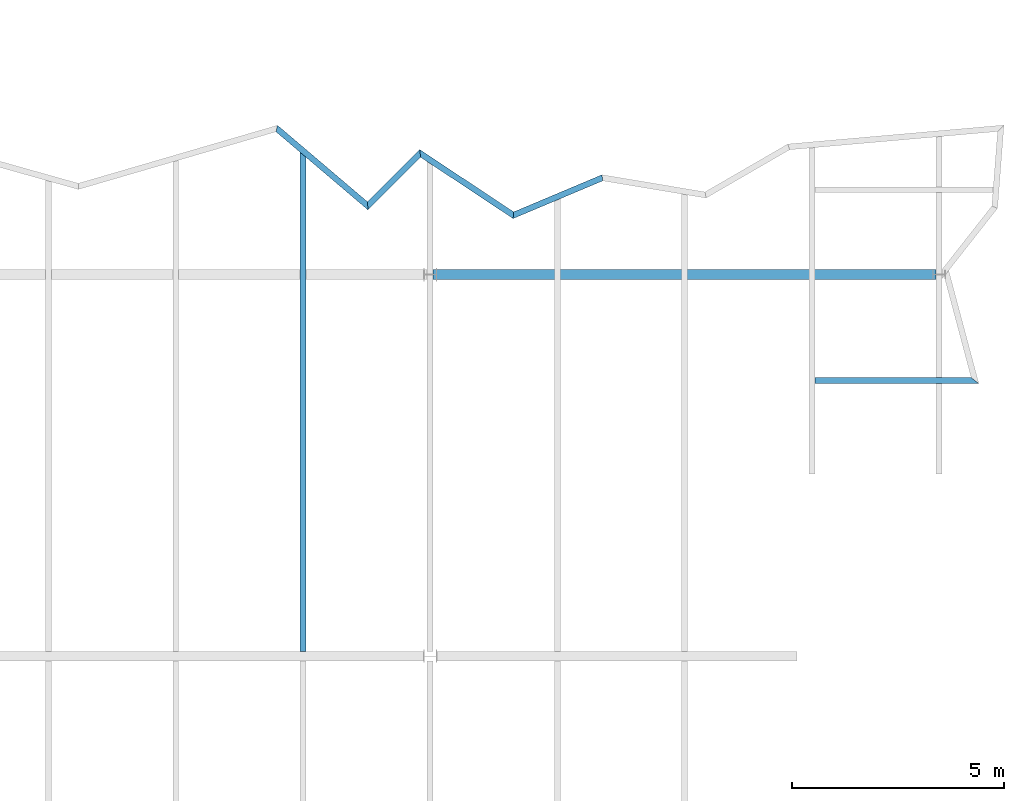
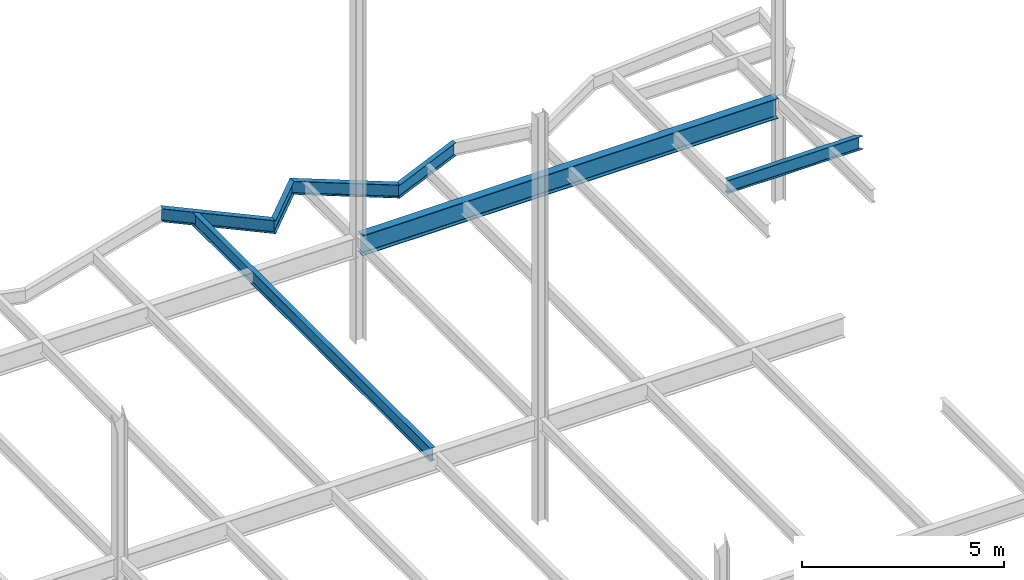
# One storey, part 24 of 26: 7 beams.
"""IFC2X3 building model written with IfcOpenShell, lengths in millimetres."""

from ifc_helpers import new_model, si_unit, origin, place, context, project, spatial, faceted_brep, material, element, save


model = new_model("IFC2X3")

# Units and contexts
context_of_model = context(None, 3, precision=1e-05, world=origin())
ifc_project = project(units=[si_unit("LENGTHUNIT", "METRE", prefix="MILLI")], contexts=[context_of_model])

# Building, storey
building = spatial("IfcBuilding", under=ifc_project, Name="Building", CompositionType="ELEMENT")
storey = spatial("IfcBuildingStorey", under=building, Name="FL4-FRM", CompositionType="ELEMENT")

# Beams
ifc_material_1 = material(Name="A992")
beam_1_placement = place(None, origin())
element("IfcBeam", 1, at=beam_1_placement, inside=storey, material=ifc_material_1, Name="B1006", context=context_of_model, shape_type="Brep", body=[
    faceted_brep([(81070.0, 24430.0, 12974.0), (81070.0, 24570.0, 12974.0), (84758.1, 24570.0, 12974.0), (84940.3, 24430.0, 12974.0), (81070.0, 24570.0, 12982.8), (84758.1, 24570.0, 12982.8), (81070.0, 24513.4, 12982.8), (84831.8, 24513.4, 12982.8), (81070.0, 24511.9, 12982.9), (84833.6, 24512.0, 12982.9), (81070.0, 24510.5, 12983.2), (84835.5, 24510.5, 12983.2), (81070.0, 24509.2, 12983.7), (84837.2, 24509.2, 12983.7), (81070.0, 24507.9, 12984.4), (84838.9, 24507.9, 12984.4), (81070.0, 24506.7, 12985.3), (84840.4, 24506.7, 12985.2), (81070.0, 24505.7, 12986.3), (84841.7, 24505.7, 12986.3), (81070.0, 24504.8, 12987.5), (84842.9, 24504.9, 12987.4), (81070.0, 24504.1, 12988.8), (84843.8, 24504.1, 12988.7), (81070.0, 24503.6, 12990.1), (84844.4, 24503.7, 12990.1), (81070.0, 24503.3, 12991.5), (84844.8, 24503.4, 12991.5), (81070.0, 24503.2, 12993.0), (84845.0, 24503.2, 12993.0), (81070.0, 24503.2, 13354.0), (84845.0, 24503.2, 13354.0), (81070.0, 24503.3, 13355.5), (84844.8, 24503.4, 13355.5), (81070.0, 24503.6, 13356.9), (84844.4, 24503.7, 13356.9), (81070.0, 24504.1, 13358.2), (84843.8, 24504.1, 13358.3), (81070.0, 24504.8, 13359.5), (84842.9, 24504.9, 13359.6), (81070.0, 24505.7, 13360.7), (84841.7, 24505.7, 13360.7), (81070.0, 24506.7, 13361.7), (84840.4, 24506.7, 13361.8), (81070.0, 24507.9, 13362.6), (84838.9, 24507.9, 13362.6), (81070.0, 24509.2, 13363.3), (84837.2, 24509.2, 13363.3), (81070.0, 24510.5, 13363.8), (84835.5, 24510.5, 13363.8), (81070.0, 24511.9, 13364.1), (84833.6, 24512.0, 13364.1), (81070.0, 24513.4, 13364.2), (84831.8, 24513.4, 13364.2), (81070.0, 24570.0, 13364.2), (84758.1, 24570.0, 13364.2), (81070.0, 24570.0, 13373.0), (84758.1, 24570.0, 13373.0), (81070.0, 24430.0, 13373.0), (84940.3, 24430.0, 13373.0), (81070.0, 24430.0, 13364.2), (84940.3, 24430.0, 13364.2), (81070.0, 24486.6, 13364.2), (84866.6, 24486.6, 13364.2), (81070.0, 24488.1, 13364.1), (84864.8, 24488.0, 13364.1), (81070.0, 24489.5, 13363.8), (84862.9, 24489.5, 13363.8), (81070.0, 24490.8, 13363.3), (84861.1, 24490.8, 13363.3), (81070.0, 24492.1, 13362.6), (84859.5, 24492.1, 13362.6), (81070.0, 24493.3, 13361.7), (84858.0, 24493.3, 13361.8), (81070.0, 24494.3, 13360.7), (84856.7, 24494.3, 13360.7), (81070.0, 24495.2, 13359.5), (84855.5, 24495.1, 13359.6), (81070.0, 24495.9, 13358.2), (84854.6, 24495.9, 13358.3), (81070.0, 24496.4, 13356.9), (84854.0, 24496.3, 13356.9), (81070.0, 24496.7, 13355.5), (84853.6, 24496.6, 13355.5), (81070.0, 24496.8, 13354.0), (84853.4, 24496.8, 13354.0), (81070.0, 24496.8, 12993.0), (84853.4, 24496.8, 12993.0), (81070.0, 24496.7, 12991.5), (84853.6, 24496.6, 12991.5), (81070.0, 24496.4, 12990.1), (84854.0, 24496.3, 12990.1), (81070.0, 24495.9, 12988.8), (84854.6, 24495.9, 12988.7), (81070.0, 24495.2, 12987.5), (84855.5, 24495.1, 12987.4), (81070.0, 24494.3, 12986.3), (84856.7, 24494.3, 12986.3), (81070.0, 24493.3, 12985.3), (84858.0, 24493.3, 12985.2), (81070.0, 24492.1, 12984.4), (84859.5, 24492.1, 12984.4), (81070.0, 24490.8, 12983.7), (84861.1, 24490.8, 12983.7), (81070.0, 24489.5, 12983.2), (84862.9, 24489.5, 12983.2), (81070.0, 24488.1, 12982.9), (84864.8, 24488.0, 12982.9), (81070.0, 24486.6, 12982.8), (84866.6, 24486.6, 12982.8), (81070.0, 24430.0, 12982.8), (84940.3, 24430.0, 12982.8)], [[[0, 1, 2, 3]], [[1, 4, 5, 2]], [[4, 6, 7, 5]], [[6, 8, 9, 7]], [[8, 10, 11, 9]], [[10, 12, 13, 11]], [[12, 14, 15, 13]], [[14, 16, 17, 15]], [[16, 18, 19, 17]], [[18, 20, 21, 19]], [[20, 22, 23, 21]], [[22, 24, 25, 23]], [[24, 26, 27, 25]], [[26, 28, 29, 27]], [[28, 30, 31, 29]], [[30, 32, 33, 31]], [[32, 34, 35, 33]], [[34, 36, 37, 35]], [[36, 38, 39, 37]], [[38, 40, 41, 39]], [[40, 42, 43, 41]], [[42, 44, 45, 43]], [[44, 46, 47, 45]], [[46, 48, 49, 47]], [[48, 50, 51, 49]], [[50, 52, 53, 51]], [[52, 54, 55, 53]], [[54, 56, 57, 55]], [[56, 58, 59, 57]], [[58, 60, 61, 59]], [[60, 62, 63, 61]], [[62, 64, 65, 63]], [[64, 66, 67, 65]], [[66, 68, 69, 67]], [[68, 70, 71, 69]], [[70, 72, 73, 71]], [[72, 74, 75, 73]], [[74, 76, 77, 75]], [[76, 78, 79, 77]], [[78, 80, 81, 79]], [[80, 82, 83, 81]], [[82, 84, 85, 83]], [[84, 86, 87, 85]], [[86, 88, 89, 87]], [[88, 90, 91, 89]], [[90, 92, 93, 91]], [[92, 94, 95, 93]], [[94, 96, 97, 95]], [[96, 98, 99, 97]], [[98, 100, 101, 99]], [[100, 102, 103, 101]], [[102, 104, 105, 103]], [[104, 106, 107, 105]], [[106, 108, 109, 107]], [[108, 110, 111, 109]], [[110, 0, 3, 111]], [[0, 110, 108, 106, 104, 102, 100, 98, 96, 94, 92, 90, 88, 86, 84, 82, 80, 78, 76, 74, 72, 70, 68, 66, 64, 62, 60, 58, 56, 54, 52, 50, 48, 46, 44, 42, 40, 38, 36, 34, 32, 30, 28, 26, 24, 22, 20, 18, 16, 14, 12, 10, 8, 6, 4, 1]], [[3, 2, 5, 7, 9, 11, 13, 15, 17, 19, 21, 23, 25, 27, 29, 31, 33, 35, 37, 39, 41, 43, 45, 47, 49, 51, 53, 55, 57, 59, 61, 63, 65, 67, 69, 71, 73, 75, 77, 79, 81, 83, 85, 87, 89, 91, 93, 95, 97, 99, 101, 103, 105, 107, 109, 111]]]),
])
ifc_material_2 = material(Name="A992")
beam_2_placement = place(None, origin())
element("IfcBeam", 2, at=beam_2_placement, inside=storey, material=ifc_material_2, Name="B1017", context=context_of_model, shape_type="Brep", body=[
    faceted_brep([(73955.0, 28320.5, 12974.0), (73969.9, 28478.7, 12974.0), (76052.1, 29355.4, 12974.0), (76069.1, 29210.6, 12974.0), (73969.9, 28478.7, 12982.8), (76052.1, 29355.4, 12982.8), (73963.9, 28414.7, 12982.8), (76059.0, 29296.9, 12982.8), (73963.7, 28413.1, 12982.9), (76059.2, 29295.4, 12982.9), (73963.6, 28411.5, 12983.2), (76059.3, 29293.9, 12983.2), (73963.4, 28409.9, 12983.7), (76059.5, 29292.5, 12983.7), (73963.3, 28408.5, 12984.4), (76059.6, 29291.2, 12984.4), (73963.2, 28407.2, 12985.3), (76059.8, 29290.0, 12985.3), (73963.1, 28406.0, 12986.3), (76059.9, 29288.9, 12986.3), (73963.0, 28405.0, 12987.5), (76060.0, 29288.0, 12987.5), (73962.9, 28404.2, 12988.8), (76060.1, 29287.3, 12988.8), (73962.9, 28403.7, 12990.1), (76060.2, 29286.7, 12990.1), (73962.8, 28403.3, 12991.5), (76060.2, 29286.4, 12991.5), (73962.8, 28403.2, 12993.0), (76060.2, 29286.3, 12993.0), (73962.8, 28403.2, 13354.0), (76060.2, 29286.3, 13354.0), (73962.8, 28403.3, 13355.5), (76060.2, 29286.4, 13355.5), (73962.9, 28403.7, 13356.9), (76060.2, 29286.7, 13356.9), (73962.9, 28404.2, 13358.2), (76060.1, 29287.3, 13358.2), (73963.0, 28405.0, 13359.5), (76060.0, 29288.0, 13359.5), (73963.1, 28406.0, 13360.7), (76059.9, 29288.9, 13360.7), (73963.2, 28407.2, 13361.7), (76059.8, 29290.0, 13361.7), (73963.3, 28408.5, 13362.6), (76059.6, 29291.2, 13362.6), (73963.4, 28409.9, 13363.3), (76059.5, 29292.5, 13363.3), (73963.6, 28411.5, 13363.8), (76059.3, 29293.9, 13363.8), (73963.7, 28413.1, 13364.1), (76059.2, 29295.4, 13364.1), (73963.9, 28414.7, 13364.2), (76059.0, 29296.9, 13364.2), (73969.9, 28478.7, 13364.2), (76052.1, 29355.4, 13364.2), (73969.9, 28478.7, 13373.0), (76052.1, 29355.4, 13373.0), (73955.0, 28320.5, 13373.0), (76069.1, 29210.6, 13373.0), (73955.0, 28320.5, 13364.2), (76069.1, 29210.6, 13364.2), (73961.0, 28384.4, 13364.2), (76062.2, 29269.1, 13364.2), (73961.2, 28386.1, 13364.1), (76062.1, 29270.6, 13364.1), (73961.4, 28387.7, 13363.8), (76061.9, 29272.1, 13363.8), (73961.5, 28389.2, 13363.3), (76061.7, 29273.5, 13363.3), (73961.6, 28390.7, 13362.6), (76061.6, 29274.8, 13362.6), (73961.8, 28392.0, 13361.7), (76061.4, 29276.1, 13361.7), (73961.9, 28393.1, 13360.7), (76061.3, 29277.1, 13360.7), (73962.0, 28394.1, 13359.5), (76061.2, 29278.0, 13359.5), (73962.0, 28394.9, 13358.2), (76061.1, 29278.7, 13358.2), (73962.1, 28395.5, 13356.9), (76061.0, 29279.3, 13356.9), (73962.1, 28395.8, 13355.5), (76061.0, 29279.6, 13355.5), (73962.1, 28396.0, 13354.0), (76061.0, 29279.7, 13354.0), (73962.1, 28396.0, 12993.0), (76061.0, 29279.7, 12993.0), (73962.1, 28395.8, 12991.5), (76061.0, 29279.6, 12991.5), (73962.1, 28395.5, 12990.1), (76061.0, 29279.3, 12990.1), (73962.0, 28394.9, 12988.8), (76061.1, 29278.7, 12988.8), (73962.0, 28394.1, 12987.5), (76061.2, 29278.0, 12987.5), (73961.9, 28393.1, 12986.3), (76061.3, 29277.1, 12986.3), (73961.8, 28392.0, 12985.3), (76061.4, 29276.1, 12985.3), (73961.6, 28390.7, 12984.4), (76061.6, 29274.8, 12984.4), (73961.5, 28389.2, 12983.7), (76061.7, 29273.5, 12983.7), (73961.4, 28387.7, 12983.2), (76061.9, 29272.1, 12983.2), (73961.2, 28386.1, 12982.9), (76062.1, 29270.6, 12982.9), (73961.0, 28384.4, 12982.8), (76062.2, 29269.1, 12982.8), (73955.0, 28320.5, 12982.8), (76069.1, 29210.6, 12982.8)], [[[0, 1, 2, 3]], [[1, 4, 5, 2]], [[4, 6, 7, 5]], [[6, 8, 9, 7]], [[8, 10, 11, 9]], [[10, 12, 13, 11]], [[12, 14, 15, 13]], [[14, 16, 17, 15]], [[16, 18, 19, 17]], [[18, 20, 21, 19]], [[20, 22, 23, 21]], [[22, 24, 25, 23]], [[24, 26, 27, 25]], [[26, 28, 29, 27]], [[28, 30, 31, 29]], [[30, 32, 33, 31]], [[32, 34, 35, 33]], [[34, 36, 37, 35]], [[36, 38, 39, 37]], [[38, 40, 41, 39]], [[40, 42, 43, 41]], [[42, 44, 45, 43]], [[44, 46, 47, 45]], [[46, 48, 49, 47]], [[48, 50, 51, 49]], [[50, 52, 53, 51]], [[52, 54, 55, 53]], [[54, 56, 57, 55]], [[56, 58, 59, 57]], [[58, 60, 61, 59]], [[60, 62, 63, 61]], [[62, 64, 65, 63]], [[64, 66, 67, 65]], [[66, 68, 69, 67]], [[68, 70, 71, 69]], [[70, 72, 73, 71]], [[72, 74, 75, 73]], [[74, 76, 77, 75]], [[76, 78, 79, 77]], [[78, 80, 81, 79]], [[80, 82, 83, 81]], [[82, 84, 85, 83]], [[84, 86, 87, 85]], [[86, 88, 89, 87]], [[88, 90, 91, 89]], [[90, 92, 93, 91]], [[92, 94, 95, 93]], [[94, 96, 97, 95]], [[96, 98, 99, 97]], [[98, 100, 101, 99]], [[100, 102, 103, 101]], [[102, 104, 105, 103]], [[104, 106, 107, 105]], [[106, 108, 109, 107]], [[108, 110, 111, 109]], [[110, 0, 3, 111]], [[0, 110, 108, 106, 104, 102, 100, 98, 96, 94, 92, 90, 88, 86, 84, 82, 80, 78, 76, 74, 72, 70, 68, 66, 64, 62, 60, 58, 56, 54, 52, 50, 48, 46, 44, 42, 40, 38, 36, 34, 32, 30, 28, 26, 24, 22, 20, 18, 16, 14, 12, 10, 8, 6, 4, 1]], [[3, 2, 5, 7, 9, 11, 13, 15, 17, 19, 21, 23, 25, 27, 29, 31, 33, 35, 37, 39, 41, 43, 45, 47, 49, 51, 53, 55, 57, 59, 61, 63, 65, 67, 69, 71, 73, 75, 77, 79, 81, 83, 85, 87, 89, 91, 93, 95, 97, 99, 101, 103, 105, 107, 109, 111]]]),
])
ifc_material_3 = material(Name="A992")
beam_3_placement = place(None, origin())
element("IfcBeam", 3, at=beam_3_placement, inside=storey, material=ifc_material_3, Name="B1018", context=context_of_model, shape_type="Brep", body=[
    faceted_brep([(71773.4, 29767.3, 12974.0), (71755.4, 29947.3, 12974.0), (73969.9, 28478.7, 12974.0), (73955.0, 28320.5, 12974.0), (71755.4, 29947.3, 12982.8), (73969.9, 28478.7, 12982.8), (71762.7, 29874.5, 12982.8), (73963.9, 28414.7, 12982.8), (71762.9, 29872.5, 12982.9), (73963.7, 28412.9, 12982.9), (71763.1, 29870.5, 12983.3), (73963.6, 28411.2, 12983.3), (71763.3, 29868.6, 12983.9), (73963.4, 28409.5, 12983.9), (71763.5, 29866.9, 12984.7), (73963.3, 28408.0, 12984.7), (71763.6, 29865.3, 12985.8), (73963.1, 28406.6, 12985.8), (71763.8, 29864.0, 12987.0), (73963.0, 28405.4, 12987.0), (71763.9, 29862.9, 12988.3), (73962.9, 28404.5, 12988.4), (71763.9, 29862.1, 12989.8), (73962.9, 28403.8, 12989.8), (71764.0, 29861.6, 12991.4), (73962.8, 28403.3, 12991.4), (71764.0, 29861.4, 12993.0), (73962.8, 28403.2, 12993.0), (71764.0, 29861.4, 13354.0), (73962.8, 28403.2, 13354.0), (71764.0, 29861.6, 13355.6), (73962.8, 28403.3, 13355.6), (71763.9, 29862.1, 13357.2), (73962.9, 28403.8, 13357.2), (71763.9, 29862.9, 13358.7), (73962.9, 28404.5, 13358.6), (71763.8, 29864.0, 13360.0), (73963.0, 28405.4, 13360.0), (71763.6, 29865.3, 13361.2), (73963.1, 28406.6, 13361.2), (71763.5, 29866.9, 13362.3), (73963.3, 28408.0, 13362.3), (71763.3, 29868.6, 13363.1), (73963.4, 28409.5, 13363.1), (71763.1, 29870.5, 13363.7), (73963.6, 28411.2, 13363.7), (71762.9, 29872.5, 13364.1), (73963.7, 28412.9, 13364.1), (71762.7, 29874.5, 13364.2), (73963.9, 28414.7, 13364.2), (71755.4, 29947.3, 13364.2), (73969.9, 28478.7, 13364.2), (71755.4, 29947.3, 13373.0), (73969.9, 28478.7, 13373.0), (71773.4, 29767.3, 13373.0), (73955.0, 28320.5, 13373.0), (71773.4, 29767.3, 13364.2), (73955.0, 28320.5, 13364.2), (71766.1, 29840.1, 13364.2), (73961.0, 28384.4, 13364.2), (71765.9, 29842.1, 13364.1), (73961.2, 28386.2, 13364.1), (71765.7, 29844.1, 13363.7), (73961.4, 28388.0, 13363.7), (71765.6, 29846.0, 13363.1), (73961.5, 28389.7, 13363.1), (71765.4, 29847.8, 13362.3), (73961.7, 28391.2, 13362.3), (71765.2, 29849.4, 13361.2), (73961.8, 28392.6, 13361.2), (71765.1, 29850.7, 13360.0), (73961.9, 28393.7, 13360.0), (71765.0, 29851.8, 13358.7), (73962.0, 28394.7, 13358.6), (71764.9, 29852.5, 13357.2), (73962.1, 28395.4, 13357.2), (71764.9, 29853.0, 13355.6), (73962.1, 28395.8, 13355.6), (71764.8, 29853.2, 13354.0), (73962.1, 28396.0, 13354.0), (71764.8, 29853.2, 12993.0), (73962.1, 28396.0, 12993.0), (71764.9, 29853.0, 12991.4), (73962.1, 28395.8, 12991.4), (71764.9, 29852.5, 12989.8), (73962.1, 28395.4, 12989.8), (71765.0, 29851.8, 12988.3), (73962.0, 28394.7, 12988.4), (71765.1, 29850.7, 12987.0), (73961.9, 28393.7, 12987.0), (71765.2, 29849.4, 12985.8), (73961.8, 28392.6, 12985.8), (71765.4, 29847.8, 12984.7), (73961.7, 28391.2, 12984.7), (71765.6, 29846.0, 12983.9), (73961.5, 28389.7, 12983.9), (71765.7, 29844.1, 12983.3), (73961.4, 28388.0, 12983.3), (71765.9, 29842.1, 12982.9), (73961.2, 28386.2, 12982.9), (71766.1, 29840.1, 12982.8), (73961.0, 28384.4, 12982.8), (71773.4, 29767.3, 12982.8), (73955.0, 28320.5, 12982.8)], [[[0, 1, 2, 3]], [[1, 4, 5, 2]], [[4, 6, 7, 5]], [[6, 8, 9, 7]], [[8, 10, 11, 9]], [[10, 12, 13, 11]], [[12, 14, 15, 13]], [[14, 16, 17, 15]], [[16, 18, 19, 17]], [[18, 20, 21, 19]], [[20, 22, 23, 21]], [[22, 24, 25, 23]], [[24, 26, 27, 25]], [[26, 28, 29, 27]], [[28, 30, 31, 29]], [[30, 32, 33, 31]], [[32, 34, 35, 33]], [[34, 36, 37, 35]], [[36, 38, 39, 37]], [[38, 40, 41, 39]], [[40, 42, 43, 41]], [[42, 44, 45, 43]], [[44, 46, 47, 45]], [[46, 48, 49, 47]], [[48, 50, 51, 49]], [[50, 52, 53, 51]], [[52, 54, 55, 53]], [[54, 56, 57, 55]], [[56, 58, 59, 57]], [[58, 60, 61, 59]], [[60, 62, 63, 61]], [[62, 64, 65, 63]], [[64, 66, 67, 65]], [[66, 68, 69, 67]], [[68, 70, 71, 69]], [[70, 72, 73, 71]], [[72, 74, 75, 73]], [[74, 76, 77, 75]], [[76, 78, 79, 77]], [[78, 80, 81, 79]], [[80, 82, 83, 81]], [[82, 84, 85, 83]], [[84, 86, 87, 85]], [[86, 88, 89, 87]], [[88, 90, 91, 89]], [[90, 92, 93, 91]], [[92, 94, 95, 93]], [[94, 96, 97, 95]], [[96, 98, 99, 97]], [[98, 100, 101, 99]], [[100, 102, 103, 101]], [[102, 0, 3, 103]], [[0, 102, 100, 98, 96, 94, 92, 90, 88, 86, 84, 82, 80, 78, 76, 74, 72, 70, 68, 66, 64, 62, 60, 58, 56, 54, 52, 50, 48, 46, 44, 42, 40, 38, 36, 34, 32, 30, 28, 26, 24, 22, 20, 18, 16, 14, 12, 10, 8, 6, 4, 1]], [[3, 2, 5, 7, 9, 11, 13, 15, 17, 19, 21, 23, 25, 27, 29, 31, 33, 35, 37, 39, 41, 43, 45, 47, 49, 51, 53, 55, 57, 59, 61, 63, 65, 67, 69, 71, 73, 75, 77, 79, 81, 83, 85, 87, 89, 91, 93, 95, 97, 99, 101, 103]]]),
])
ifc_material_4 = material(Name="A992")
beam_4_placement = place(None, origin())
element("IfcBeam", 4, at=beam_4_placement, inside=storey, material=ifc_material_4, Name="B1020", context=context_of_model, shape_type="Brep", body=[
    faceted_brep([(70531.4, 28525.3, 12974.0), (70523.7, 28715.5, 12974.0), (71755.4, 29947.3, 12974.0), (71773.4, 29767.3, 12974.0), (70523.7, 28715.5, 12982.8), (71755.4, 29947.3, 12982.8), (70526.8, 28638.6, 12982.8), (71762.7, 29874.5, 12982.8), (70526.9, 28636.5, 12982.9), (71762.9, 29872.5, 12982.9), (70526.9, 28634.3, 12983.3), (71763.1, 29870.5, 12983.3), (70527.0, 28632.4, 12983.9), (71763.3, 29868.6, 12983.9), (70527.1, 28630.5, 12984.7), (71763.5, 29866.9, 12984.7), (70527.2, 28628.8, 12985.8), (71763.6, 29865.3, 12985.8), (70527.2, 28627.4, 12987.0), (71763.8, 29864.0, 12987.0), (70527.3, 28626.3, 12988.3), (71763.9, 29862.9, 12988.3), (70527.3, 28625.5, 12989.8), (71763.9, 29862.1, 12989.8), (70527.3, 28625.0, 12991.4), (71764.0, 29861.6, 12991.4), (70527.3, 28624.7, 12993.0), (71764.0, 29861.4, 12993.0), (70527.3, 28624.7, 13354.0), (71764.0, 29861.4, 13354.0), (70527.3, 28625.0, 13355.6), (71764.0, 29861.6, 13355.6), (70527.3, 28625.5, 13357.2), (71763.9, 29862.1, 13357.2), (70527.3, 28626.3, 13358.7), (71763.9, 29862.9, 13358.7), (70527.2, 28627.4, 13360.0), (71763.8, 29864.0, 13360.0), (70527.2, 28628.8, 13361.2), (71763.6, 29865.3, 13361.2), (70527.1, 28630.5, 13362.3), (71763.5, 29866.9, 13362.3), (70527.0, 28632.4, 13363.1), (71763.3, 29868.6, 13363.1), (70526.9, 28634.3, 13363.7), (71763.1, 29870.5, 13363.7), (70526.9, 28636.5, 13364.1), (71762.9, 29872.5, 13364.1), (70526.8, 28638.6, 13364.2), (71762.7, 29874.5, 13364.2), (70523.7, 28715.5, 13364.2), (71755.4, 29947.3, 13364.2), (70523.7, 28715.5, 13373.0), (71755.4, 29947.3, 13373.0), (70531.4, 28525.3, 13373.0), (71773.4, 29767.3, 13373.0), (70531.4, 28525.3, 13364.2), (71773.4, 29767.3, 13364.2), (70528.2, 28602.2, 13364.2), (71766.1, 29840.1, 13364.2), (70528.2, 28604.3, 13364.1), (71765.9, 29842.1, 13364.1), (70528.1, 28606.5, 13363.7), (71765.7, 29844.1, 13363.7), (70528.0, 28608.4, 13363.1), (71765.6, 29846.0, 13363.1), (70527.9, 28610.3, 13362.3), (71765.4, 29847.8, 13362.3), (70527.8, 28612.0, 13361.2), (71765.2, 29849.4, 13361.2), (70527.8, 28613.4, 13360.0), (71765.1, 29850.7, 13360.0), (70527.7, 28614.5, 13358.7), (71765.0, 29851.8, 13358.7), (70527.7, 28615.3, 13357.2), (71764.9, 29852.5, 13357.2), (70527.7, 28615.8, 13355.6), (71764.9, 29853.0, 13355.6), (70527.7, 28616.1, 13354.0), (71764.8, 29853.2, 13354.0), (70527.7, 28616.1, 12993.0), (71764.8, 29853.2, 12993.0), (70527.7, 28615.8, 12991.4), (71764.9, 29853.0, 12991.4), (70527.7, 28615.3, 12989.8), (71764.9, 29852.5, 12989.8), (70527.7, 28614.5, 12988.3), (71765.0, 29851.8, 12988.3), (70527.8, 28613.4, 12987.0), (71765.1, 29850.7, 12987.0), (70527.8, 28612.0, 12985.8), (71765.2, 29849.4, 12985.8), (70527.9, 28610.3, 12984.7), (71765.4, 29847.8, 12984.7), (70528.0, 28608.4, 12983.9), (71765.6, 29846.0, 12983.9), (70528.1, 28606.5, 12983.3), (71765.7, 29844.1, 12983.3), (70528.2, 28604.3, 12982.9), (71765.9, 29842.1, 12982.9), (70528.2, 28602.2, 12982.8), (71766.1, 29840.1, 12982.8), (70531.4, 28525.3, 12982.8), (71773.4, 29767.3, 12982.8)], [[[0, 1, 2, 3]], [[1, 4, 5, 2]], [[4, 6, 7, 5]], [[6, 8, 9, 7]], [[8, 10, 11, 9]], [[10, 12, 13, 11]], [[12, 14, 15, 13]], [[14, 16, 17, 15]], [[16, 18, 19, 17]], [[18, 20, 21, 19]], [[20, 22, 23, 21]], [[22, 24, 25, 23]], [[24, 26, 27, 25]], [[26, 28, 29, 27]], [[28, 30, 31, 29]], [[30, 32, 33, 31]], [[32, 34, 35, 33]], [[34, 36, 37, 35]], [[36, 38, 39, 37]], [[38, 40, 41, 39]], [[40, 42, 43, 41]], [[42, 44, 45, 43]], [[44, 46, 47, 45]], [[46, 48, 49, 47]], [[48, 50, 51, 49]], [[50, 52, 53, 51]], [[52, 54, 55, 53]], [[54, 56, 57, 55]], [[56, 58, 59, 57]], [[58, 60, 61, 59]], [[60, 62, 63, 61]], [[62, 64, 65, 63]], [[64, 66, 67, 65]], [[66, 68, 69, 67]], [[68, 70, 71, 69]], [[70, 72, 73, 71]], [[72, 74, 75, 73]], [[74, 76, 77, 75]], [[76, 78, 79, 77]], [[78, 80, 81, 79]], [[80, 82, 83, 81]], [[82, 84, 85, 83]], [[84, 86, 87, 85]], [[86, 88, 89, 87]], [[88, 90, 91, 89]], [[90, 92, 93, 91]], [[92, 94, 95, 93]], [[94, 96, 97, 95]], [[96, 98, 99, 97]], [[98, 100, 101, 99]], [[100, 102, 103, 101]], [[102, 0, 3, 103]], [[0, 102, 100, 98, 96, 94, 92, 90, 88, 86, 84, 82, 80, 78, 76, 74, 72, 70, 68, 66, 64, 62, 60, 58, 56, 54, 52, 50, 48, 46, 44, 42, 40, 38, 36, 34, 32, 30, 28, 26, 24, 22, 20, 18, 16, 14, 12, 10, 8, 6, 4, 1]], [[3, 2, 5, 7, 9, 11, 13, 15, 17, 19, 21, 23, 25, 27, 29, 31, 33, 35, 37, 39, 41, 43, 45, 47, 49, 51, 53, 55, 57, 59, 61, 63, 65, 67, 69, 71, 73, 75, 77, 79, 81, 83, 85, 87, 89, 91, 93, 95, 97, 99, 101, 103]]]),
])
ifc_material_5 = material(Name="A992")
beam_5_placement = place(None, origin())
element("IfcBeam", 5, at=beam_5_placement, inside=storey, material=ifc_material_5, Name="B1021", context=context_of_model, shape_type="Brep", body=[
    faceted_brep([(68364.8, 30366.8, 12974.0), (68398.0, 30522.3, 12974.0), (70523.7, 28715.5, 12974.0), (70531.4, 28525.3, 12974.0), (68398.0, 30522.3, 12982.8), (70523.7, 28715.5, 12982.8), (68384.6, 30459.5, 12982.8), (70526.8, 28638.6, 12982.8), (68384.2, 30457.7, 12982.9), (70526.9, 28636.5, 12982.9), (68383.8, 30456.0, 12983.3), (70526.9, 28634.3, 12983.3), (68383.5, 30454.3, 12983.9), (70527.0, 28632.4, 12983.9), (68383.2, 30452.8, 12984.7), (70527.1, 28630.5, 12984.7), (68382.9, 30451.5, 12985.8), (70527.2, 28628.8, 12985.8), (68382.6, 30450.3, 12987.0), (70527.2, 28627.4, 12987.0), (68382.4, 30449.4, 12988.4), (70527.3, 28626.3, 12988.3), (68382.3, 30448.7, 12989.8), (70527.3, 28625.5, 12989.8), (68382.2, 30448.3, 12991.4), (70527.3, 28625.0, 12991.4), (68382.2, 30448.1, 12993.0), (70527.3, 28624.7, 12993.0), (68382.2, 30448.1, 13354.0), (70527.3, 28624.7, 13354.0), (68382.2, 30448.3, 13355.6), (70527.3, 28625.0, 13355.6), (68382.3, 30448.7, 13357.2), (70527.3, 28625.5, 13357.2), (68382.4, 30449.4, 13358.6), (70527.3, 28626.3, 13358.7), (68382.6, 30450.3, 13360.0), (70527.2, 28627.4, 13360.0), (68382.9, 30451.5, 13361.2), (70527.2, 28628.8, 13361.2), (68383.2, 30452.8, 13362.3), (70527.1, 28630.5, 13362.3), (68383.5, 30454.3, 13363.1), (70527.0, 28632.4, 13363.1), (68383.8, 30456.0, 13363.7), (70526.9, 28634.3, 13363.7), (68384.2, 30457.7, 13364.1), (70526.9, 28636.5, 13364.1), (68384.6, 30459.5, 13364.2), (70526.8, 28638.6, 13364.2), (68398.0, 30522.3, 13364.2), (70523.7, 28715.5, 13364.2), (68398.0, 30522.3, 13373.0), (70523.7, 28715.5, 13373.0), (68364.8, 30366.8, 13373.0), (70531.4, 28525.3, 13373.0), (68364.8, 30366.8, 13364.2), (70531.4, 28525.3, 13364.2), (68378.2, 30429.7, 13364.2), (70528.2, 28602.2, 13364.2), (68378.6, 30431.5, 13364.1), (70528.2, 28604.3, 13364.1), (68379.0, 30433.2, 13363.7), (70528.1, 28606.5, 13363.7), (68379.3, 30434.8, 13363.1), (70528.0, 28608.4, 13363.1), (68379.7, 30436.3, 13362.3), (70527.9, 28610.3, 13362.3), (68379.9, 30437.7, 13361.2), (70527.8, 28612.0, 13361.2), (68380.2, 30438.8, 13360.0), (70527.8, 28613.4, 13360.0), (68380.4, 30439.8, 13358.6), (70527.7, 28614.5, 13358.7), (68380.5, 30440.5, 13357.2), (70527.7, 28615.3, 13357.2), (68380.6, 30440.9, 13355.6), (70527.7, 28615.8, 13355.6), (68380.7, 30441.0, 13354.0), (70527.7, 28616.1, 13354.0), (68380.7, 30441.0, 12993.0), (70527.7, 28616.1, 12993.0), (68380.6, 30440.9, 12991.4), (70527.7, 28615.8, 12991.4), (68380.5, 30440.5, 12989.8), (70527.7, 28615.3, 12989.8), (68380.4, 30439.8, 12988.4), (70527.7, 28614.5, 12988.3), (68380.2, 30438.8, 12987.0), (70527.8, 28613.4, 12987.0), (68379.9, 30437.7, 12985.8), (70527.8, 28612.0, 12985.8), (68379.7, 30436.3, 12984.7), (70527.9, 28610.3, 12984.7), (68379.3, 30434.8, 12983.9), (70528.0, 28608.4, 12983.9), (68379.0, 30433.2, 12983.3), (70528.1, 28606.5, 12983.3), (68378.6, 30431.5, 12982.9), (70528.2, 28604.3, 12982.9), (68378.2, 30429.7, 12982.8), (70528.2, 28602.2, 12982.8), (68364.8, 30366.8, 12982.8), (70531.4, 28525.3, 12982.8)], [[[0, 1, 2, 3]], [[1, 4, 5, 2]], [[4, 6, 7, 5]], [[6, 8, 9, 7]], [[8, 10, 11, 9]], [[10, 12, 13, 11]], [[12, 14, 15, 13]], [[14, 16, 17, 15]], [[16, 18, 19, 17]], [[18, 20, 21, 19]], [[20, 22, 23, 21]], [[22, 24, 25, 23]], [[24, 26, 27, 25]], [[26, 28, 29, 27]], [[28, 30, 31, 29]], [[30, 32, 33, 31]], [[32, 34, 35, 33]], [[34, 36, 37, 35]], [[36, 38, 39, 37]], [[38, 40, 41, 39]], [[40, 42, 43, 41]], [[42, 44, 45, 43]], [[44, 46, 47, 45]], [[46, 48, 49, 47]], [[48, 50, 51, 49]], [[50, 52, 53, 51]], [[52, 54, 55, 53]], [[54, 56, 57, 55]], [[56, 58, 59, 57]], [[58, 60, 61, 59]], [[60, 62, 63, 61]], [[62, 64, 65, 63]], [[64, 66, 67, 65]], [[66, 68, 69, 67]], [[68, 70, 71, 69]], [[70, 72, 73, 71]], [[72, 74, 75, 73]], [[74, 76, 77, 75]], [[76, 78, 79, 77]], [[78, 80, 81, 79]], [[80, 82, 83, 81]], [[82, 84, 85, 83]], [[84, 86, 87, 85]], [[86, 88, 89, 87]], [[88, 90, 91, 89]], [[90, 92, 93, 91]], [[92, 94, 95, 93]], [[94, 96, 97, 95]], [[96, 98, 99, 97]], [[98, 100, 101, 99]], [[100, 102, 103, 101]], [[102, 0, 3, 103]], [[0, 102, 100, 98, 96, 94, 92, 90, 88, 86, 84, 82, 80, 78, 76, 74, 72, 70, 68, 66, 64, 62, 60, 58, 56, 54, 52, 50, 48, 46, 44, 42, 40, 38, 36, 34, 32, 30, 28, 26, 24, 22, 20, 18, 16, 14, 12, 10, 8, 6, 4, 1]], [[3, 2, 5, 7, 9, 11, 13, 15, 17, 19, 21, 23, 25, 27, 29, 31, 33, 35, 37, 39, 41, 43, 45, 47, 49, 51, 53, 55, 57, 59, 61, 63, 65, 67, 69, 71, 73, 75, 77, 79, 81, 83, 85, 87, 89, 91, 93, 95, 97, 99, 101, 103]]]),
])
ifc_material_6 = material(Name="A992")
beam_6_placement = place(None, origin())
element("IfcBeam", 6, at=beam_6_placement, inside=storey, material=ifc_material_6, Name="B1022", context=context_of_model, shape_type="Brep", body=[
    faceted_brep([(68930.0, 29886.4, 12974.0), (69070.0, 29767.4, 12974.0), (69070.0, 18114.5, 12974.0), (68930.0, 18114.5, 12974.0), (69070.0, 29767.4, 12982.8), (69070.0, 18114.5, 12982.8), (69013.4, 29815.5, 12982.8), (69013.4, 18114.5, 12982.8), (69012.0, 29816.7, 12982.9), (69011.9, 18114.5, 12982.9), (69010.5, 29818.0, 12983.2), (69010.5, 18114.5, 12983.2), (69009.2, 29819.1, 12983.7), (69009.2, 18114.5, 12983.7), (69007.9, 29820.2, 12984.4), (69007.9, 18114.5, 12984.4), (69006.7, 29821.2, 12985.3), (69006.7, 18114.5, 12985.3), (69005.7, 29822.1, 12986.3), (69005.7, 18114.5, 12986.3), (69004.8, 29822.8, 12987.4), (69004.8, 18114.5, 12987.5), (69004.1, 29823.4, 12988.7), (69004.1, 18114.5, 12988.8), (69003.6, 29823.8, 12990.1), (69003.6, 18114.5, 12990.1), (69003.3, 29824.1, 12991.5), (69003.3, 18114.5, 12991.5), (69003.2, 29824.2, 12993.0), (69003.2, 18114.5, 12993.0), (69003.2, 29824.2, 13354.0), (69003.2, 18114.5, 13354.0), (69003.3, 29824.1, 13355.5), (69003.3, 18114.5, 13355.5), (69003.6, 29823.8, 13356.9), (69003.6, 18114.5, 13356.9), (69004.1, 29823.4, 13358.3), (69004.1, 18114.5, 13358.2), (69004.8, 29822.8, 13359.6), (69004.8, 18114.5, 13359.5), (69005.7, 29822.1, 13360.7), (69005.7, 18114.5, 13360.7), (69006.7, 29821.2, 13361.7), (69006.7, 18114.5, 13361.7), (69007.9, 29820.2, 13362.6), (69007.9, 18114.5, 13362.6), (69009.2, 29819.1, 13363.3), (69009.2, 18114.5, 13363.3), (69010.5, 29818.0, 13363.8), (69010.5, 18114.5, 13363.8), (69012.0, 29816.7, 13364.1), (69011.9, 18114.5, 13364.1), (69013.4, 29815.5, 13364.2), (69013.4, 18114.5, 13364.2), (69070.0, 29767.4, 13364.2), (69070.0, 18114.5, 13364.2), (69070.0, 29767.4, 13373.0), (69070.0, 18114.5, 13373.0), (68930.0, 29886.4, 13373.0), (68930.0, 18114.5, 13373.0), (68930.0, 29886.4, 13364.2), (68930.0, 18114.5, 13364.2), (68986.6, 29838.3, 13364.2), (68986.6, 18114.5, 13364.2), (68988.0, 29837.1, 13364.1), (68988.1, 18114.5, 13364.1), (68989.5, 29835.9, 13363.8), (68989.5, 18114.5, 13363.8), (68990.8, 29834.7, 13363.3), (68990.8, 18114.5, 13363.3), (68992.1, 29833.6, 13362.6), (68992.1, 18114.5, 13362.6), (68993.3, 29832.6, 13361.7), (68993.3, 18114.5, 13361.7), (68994.3, 29831.8, 13360.7), (68994.3, 18114.5, 13360.7), (68995.2, 29831.0, 13359.6), (68995.2, 18114.5, 13359.5), (68995.9, 29830.4, 13358.3), (68995.9, 18114.5, 13358.2), (68996.4, 29830.0, 13356.9), (68996.4, 18114.5, 13356.9), (68996.7, 29829.7, 13355.5), (68996.7, 18114.5, 13355.5), (68996.8, 29829.6, 13354.0), (68996.8, 18114.5, 13354.0), (68996.8, 29829.6, 12993.0), (68996.8, 18114.5, 12993.0), (68996.7, 29829.7, 12991.5), (68996.7, 18114.5, 12991.5), (68996.4, 29830.0, 12990.1), (68996.4, 18114.5, 12990.1), (68995.9, 29830.4, 12988.7), (68995.9, 18114.5, 12988.8), (68995.2, 29831.0, 12987.4), (68995.2, 18114.5, 12987.5), (68994.3, 29831.8, 12986.3), (68994.3, 18114.5, 12986.3), (68993.3, 29832.6, 12985.3), (68993.3, 18114.5, 12985.3), (68992.1, 29833.6, 12984.4), (68992.1, 18114.5, 12984.4), (68990.8, 29834.7, 12983.7), (68990.8, 18114.5, 12983.7), (68989.5, 29835.9, 12983.2), (68989.5, 18114.5, 12983.2), (68988.0, 29837.1, 12982.9), (68988.1, 18114.5, 12982.9), (68986.6, 29838.3, 12982.8), (68986.6, 18114.5, 12982.8), (68930.0, 29886.4, 12982.8), (68930.0, 18114.5, 12982.8)], [[[0, 1, 2, 3]], [[1, 4, 5, 2]], [[4, 6, 7, 5]], [[6, 8, 9, 7]], [[8, 10, 11, 9]], [[10, 12, 13, 11]], [[12, 14, 15, 13]], [[14, 16, 17, 15]], [[16, 18, 19, 17]], [[18, 20, 21, 19]], [[20, 22, 23, 21]], [[22, 24, 25, 23]], [[24, 26, 27, 25]], [[26, 28, 29, 27]], [[28, 30, 31, 29]], [[30, 32, 33, 31]], [[32, 34, 35, 33]], [[34, 36, 37, 35]], [[36, 38, 39, 37]], [[38, 40, 41, 39]], [[40, 42, 43, 41]], [[42, 44, 45, 43]], [[44, 46, 47, 45]], [[46, 48, 49, 47]], [[48, 50, 51, 49]], [[50, 52, 53, 51]], [[52, 54, 55, 53]], [[54, 56, 57, 55]], [[56, 58, 59, 57]], [[58, 60, 61, 59]], [[60, 62, 63, 61]], [[62, 64, 65, 63]], [[64, 66, 67, 65]], [[66, 68, 69, 67]], [[68, 70, 71, 69]], [[70, 72, 73, 71]], [[72, 74, 75, 73]], [[74, 76, 77, 75]], [[76, 78, 79, 77]], [[78, 80, 81, 79]], [[80, 82, 83, 81]], [[82, 84, 85, 83]], [[84, 86, 87, 85]], [[86, 88, 89, 87]], [[88, 90, 91, 89]], [[90, 92, 93, 91]], [[92, 94, 95, 93]], [[94, 96, 97, 95]], [[96, 98, 99, 97]], [[98, 100, 101, 99]], [[100, 102, 103, 101]], [[102, 104, 105, 103]], [[104, 106, 107, 105]], [[106, 108, 109, 107]], [[108, 110, 111, 109]], [[110, 0, 3, 111]], [[0, 110, 108, 106, 104, 102, 100, 98, 96, 94, 92, 90, 88, 86, 84, 82, 80, 78, 76, 74, 72, 70, 68, 66, 64, 62, 60, 58, 56, 54, 52, 50, 48, 46, 44, 42, 40, 38, 36, 34, 32, 30, 28, 26, 24, 22, 20, 18, 16, 14, 12, 10, 8, 6, 4, 1]], [[3, 2, 5, 7, 9, 11, 13, 15, 17, 19, 21, 23, 25, 27, 29, 31, 33, 35, 37, 39, 41, 43, 45, 47, 49, 51, 53, 55, 57, 59, 61, 63, 65, 67, 69, 71, 73, 75, 77, 79, 81, 83, 85, 87, 89, 91, 93, 95, 97, 99, 101, 103, 105, 107, 109, 111]]]),
])
ifc_material_7 = material(Name="A992")
beam_7_placement = place(None, origin())
element("IfcBeam", 7, at=beam_7_placement, inside=storey, material=ifc_material_7, Name="Column620", context=context_of_model, shape_type="Brep", body=[
    faceted_brep([(72070.0, 26885.5, 12761.0), (72070.0, 27114.5, 12761.0), (83930.0, 27114.5, 12761.0), (83930.0, 26885.5, 12761.0), (72070.0, 27114.5, 12780.6), (83930.0, 27114.5, 12780.6), (72070.0, 27018.6, 12780.6), (83930.0, 27018.6, 12780.6), (72070.0, 27015.4, 12781.0), (83930.0, 27015.4, 12781.0), (72070.0, 27012.3, 12782.3), (83930.0, 27012.3, 12782.3), (72070.0, 27009.7, 12784.3), (83930.0, 27009.7, 12784.3), (72070.0, 27007.7, 12787.0), (83930.0, 27007.7, 12787.0), (72070.0, 27006.4, 12790.0), (83930.0, 27006.4, 12790.0), (72070.0, 27005.9, 12793.3), (83930.0, 27005.9, 12793.3), (72070.0, 27005.9, 13340.7), (83930.0, 27005.9, 13340.7), (72070.0, 27006.4, 13344.0), (83930.0, 27006.4, 13344.0), (72070.0, 27007.7, 13347.0), (83930.0, 27007.7, 13347.0), (72070.0, 27009.7, 13349.7), (83930.0, 27009.7, 13349.7), (72070.0, 27012.3, 13351.7), (83930.0, 27012.3, 13351.7), (72070.0, 27015.4, 13353.0), (83930.0, 27015.4, 13353.0), (72070.0, 27018.6, 13353.4), (83930.0, 27018.6, 13353.4), (72070.0, 27114.5, 13353.4), (83930.0, 27114.5, 13353.4), (72070.0, 27114.5, 13373.0), (83930.0, 27114.5, 13373.0), (72070.0, 26885.5, 13373.0), (83930.0, 26885.5, 13373.0), (72070.0, 26885.5, 13353.4), (83930.0, 26885.5, 13353.4), (72070.0, 26981.4, 13353.4), (83930.0, 26981.4, 13353.4), (72070.0, 26984.6, 13353.0), (83930.0, 26984.6, 13353.0), (72070.0, 26987.7, 13351.7), (83930.0, 26987.7, 13351.7), (72070.0, 26990.3, 13349.7), (83930.0, 26990.3, 13349.7), (72070.0, 26992.3, 13347.0), (83930.0, 26992.3, 13347.0), (72070.0, 26993.6, 13344.0), (83930.0, 26993.6, 13344.0), (72070.0, 26994.1, 13340.7), (83930.0, 26994.1, 13340.7), (72070.0, 26994.1, 12793.3), (83930.0, 26994.1, 12793.3), (72070.0, 26993.6, 12790.0), (83930.0, 26993.6, 12790.0), (72070.0, 26992.3, 12787.0), (83930.0, 26992.3, 12787.0), (72070.0, 26990.3, 12784.3), (83930.0, 26990.3, 12784.3), (72070.0, 26987.7, 12782.3), (83930.0, 26987.7, 12782.3), (72070.0, 26984.6, 12781.0), (83930.0, 26984.6, 12781.0), (72070.0, 26981.4, 12780.6), (83930.0, 26981.4, 12780.6), (72070.0, 26885.5, 12780.6), (83930.0, 26885.5, 12780.6)], [[[0, 1, 2, 3]], [[1, 4, 5, 2]], [[4, 6, 7, 5]], [[6, 8, 9, 7]], [[8, 10, 11, 9]], [[10, 12, 13, 11]], [[12, 14, 15, 13]], [[14, 16, 17, 15]], [[16, 18, 19, 17]], [[18, 20, 21, 19]], [[20, 22, 23, 21]], [[22, 24, 25, 23]], [[24, 26, 27, 25]], [[26, 28, 29, 27]], [[28, 30, 31, 29]], [[30, 32, 33, 31]], [[32, 34, 35, 33]], [[34, 36, 37, 35]], [[36, 38, 39, 37]], [[38, 40, 41, 39]], [[40, 42, 43, 41]], [[42, 44, 45, 43]], [[44, 46, 47, 45]], [[46, 48, 49, 47]], [[48, 50, 51, 49]], [[50, 52, 53, 51]], [[52, 54, 55, 53]], [[54, 56, 57, 55]], [[56, 58, 59, 57]], [[58, 60, 61, 59]], [[60, 62, 63, 61]], [[62, 64, 65, 63]], [[64, 66, 67, 65]], [[66, 68, 69, 67]], [[68, 70, 71, 69]], [[70, 0, 3, 71]], [[0, 70, 68, 66, 64, 62, 60, 58, 56, 54, 52, 50, 48, 46, 44, 42, 40, 38, 36, 34, 32, 30, 28, 26, 24, 22, 20, 18, 16, 14, 12, 10, 8, 6, 4, 1]], [[3, 2, 5, 7, 9, 11, 13, 15, 17, 19, 21, 23, 25, 27, 29, 31, 33, 35, 37, 39, 41, 43, 45, 47, 49, 51, 53, 55, 57, 59, 61, 63, 65, 67, 69, 71]]]),
])

save(model, "model.ifc")
